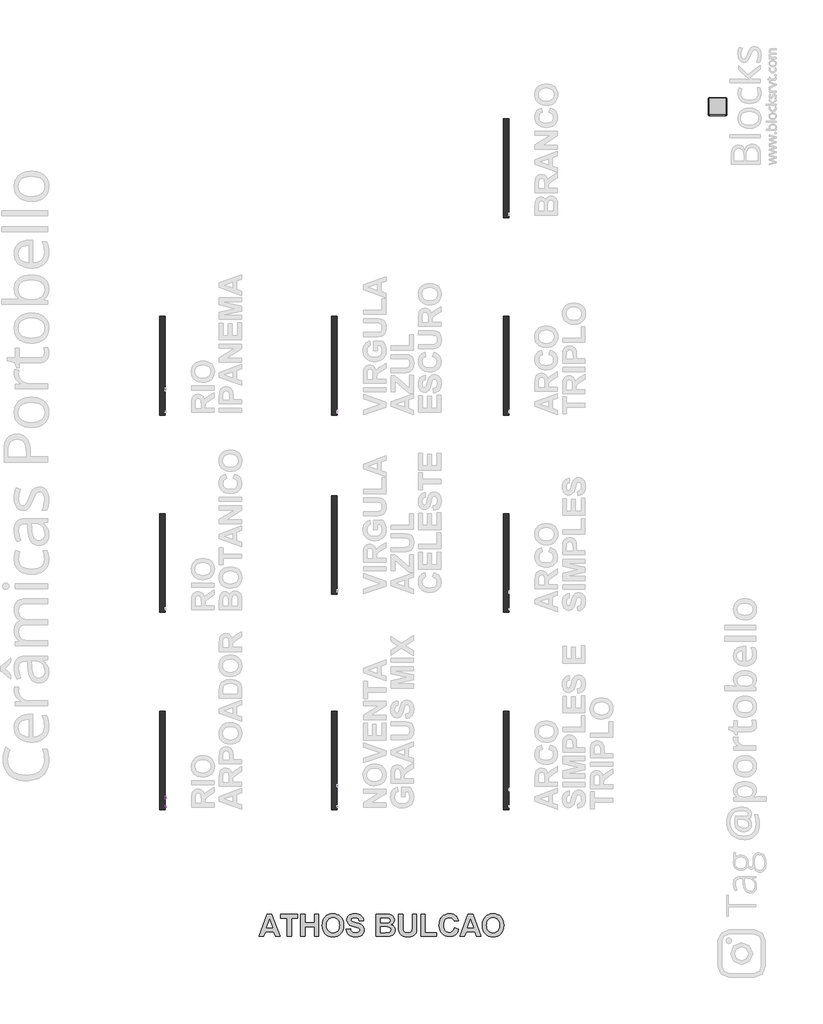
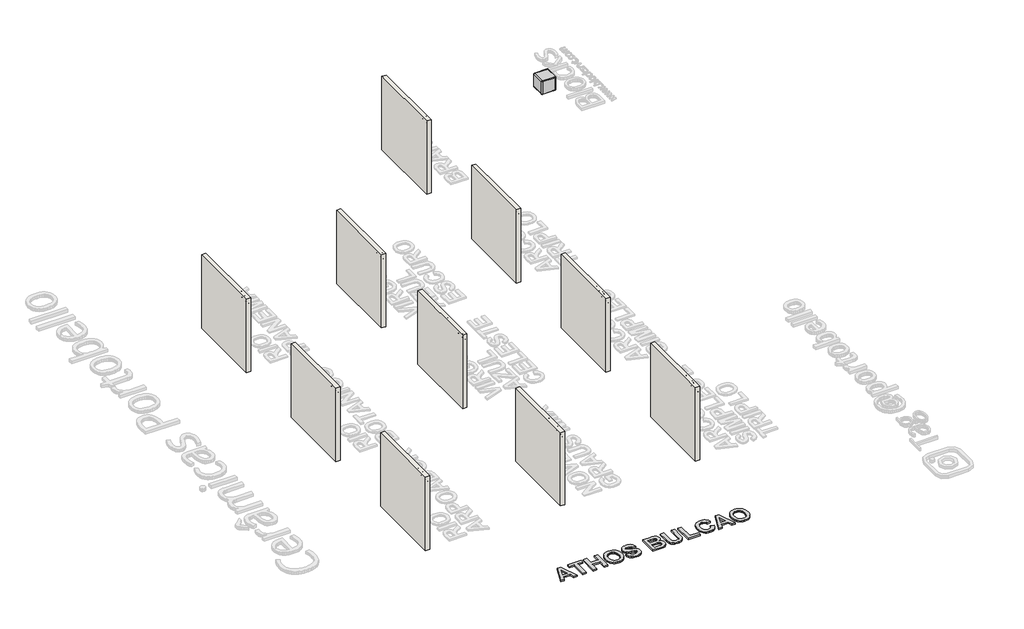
# One storey, part 1 of 12: 10 walls, 3 proxies, 1 furniture element.
"""IFC4 building model written with IfcOpenShell, lengths in millimetres."""

from ifc_helpers import new_model, si_unit, frame, origin, origin_with_axes, place, context, project, spatial, polyline, outline, extrude, transform, mapped, element, save
from components import branco_22256ad2

model = new_model("IFC4")

# Units and contexts
model_context = context("Model", 3, world=origin())
ifc_project = project(units=[si_unit("LENGTHUNIT", "METRE", prefix="MILLI")], contexts=[model_context])

# Site, building, storey
site = spatial("IfcSite", under=ifc_project)
building = spatial("IfcBuilding", under=site)
storey = spatial("IfcBuildingStorey", under=building, Name="PORTOBELLO - SHOWROOM", Elevation=0.0)

# Proxies
placement = place(None, origin())
element("IfcBuildingElementProxy", 1, Name="10mm Arial", ObjectType="10mm Arial", at=placement, inside=storey, context=model_context, shape_type="SweptSolid", body=[
    extrude(outline(polyline([(-9164.9115358, 2548.8308244), (-9164.9115358, 2649.2871345), (-9121.6240877, 2649.2871345), (-9101.525468, 2646.5770705), (-9090.5380591, 2636.9876132), (-9086.4300435, 2621.7940868), (-9088.1314977, 2611.8980611), (-9093.2358604, 2603.6942926), (-9101.8964157, 2597.679422), (-9114.2664478, 2594.3500899), (-9107.1295371, 2588.9790128), (-9096.9514686, 2576.054092), (-9080.2005751, 2548.8308244), (-9094.7932275, 2548.8308244), (-9107.8653011, 2569.6529453), (-9117.3076056, 2583.4362574), (-9123.9417443, 2589.9477687), (-9129.9136953, 2592.3390017), (-9137.1977588, 2592.7804601), (-9152.354497, 2592.7804601), (-9152.354497, 2548.8308244), (-9164.9115358, 2548.8308244)]), holes=[polyline([(-9152.354497, 2605.3374988), (-9124.2483126, 2605.3374988), (-9109.9131775, 2607.1155952), (-9101.7707227, 2612.8055033), (-9098.9870823, 2621.3281029), (-9104.2968457, 2632.3890882), (-9121.0845275, 2636.7300958), (-9152.354497, 2636.7300958), (-9152.354497, 2605.3374988)])]), frame((3902.9163978, 0.0, 0.0), z_axis=(1.0, 0.0, 0.0), x_axis=(0.0, 1.0, 0.0)), (0.0, 0.0, 1.0), 20.0),
    extrude(outline(polyline([(3922.9163978, -9053.4678167), (3922.9163978, -9066.0248555), (3902.9163978, -9066.0248555), (3902.9163978, -9053.4678167), (3922.9163978, -9053.4678167)])), frame((0.0, 0.0, 2636.7300958), z_axis=(0.0, 0.0, 1.0), x_axis=(1.0, 0.0, 0.0)), (0.0, 0.0, 1.0), 12.5570388),
    extrude(outline(polyline([(3922.9163978, -9053.4678167), (3922.9163978, -9066.0248555), (3902.9163978, -9066.0248555), (3902.9163978, -9053.4678167), (3922.9163978, -9053.4678167)])), frame((0.0, 0.0, 2548.8308244), z_axis=(0.0, 0.0, 1.0), x_axis=(1.0, 0.0, 0.0)), (0.0, 0.0, 1.0), 73.7726028),
    extrude(outline(polyline([(-9037.7715183, 2585.7171258), (-9035.0553229, 2603.5042202), (-9026.9067367, 2616.0060767), (-9016.8390328, 2622.1313119), (-9004.784766, 2624.173057), (-8991.5931308, 2621.6867878), (-8981.0563774, 2614.2279804), (-8974.1493929, 2602.3852458), (-8971.8470647, 2586.7471954), (-8975.9182922, 2564.4044955), (-8987.7763551, 2551.7616176), (-9004.784766, 2547.2611945), (-9018.1358168, 2549.7382666), (-9028.6603075, 2557.1694829), (-9035.4937156, 2569.2605379), (-9037.7715183, 2585.7171258)]), holes=[polyline([(-9025.2144795, 2585.7416512), (-9023.7613456, 2574.3771633), (-9019.401944, 2566.2806937), (-9012.8413817, 2561.4338484), (-9004.784766, 2559.8182333), (-8996.7649385, 2561.4430455), (-8990.216639, 2566.3174819), (-8985.8572374, 2574.5212504), (-8984.4041035, 2586.1340587), (-8985.8664344, 2597.1674529), (-8990.2534272, 2605.1535578), (-8996.8109238, 2610.0004031), (-9004.784766, 2611.6160182), (-9012.8413817, 2610.0065345), (-9019.401944, 2605.1780833), (-9023.7613456, 2597.1000078), (-9025.2144795, 2585.7416512)])]), frame((3902.9163978, 0.0, 0.0), z_axis=(1.0, 0.0, 0.0), x_axis=(0.0, 1.0, 0.0)), (0.0, 0.0, 1.0), 20.0),
    extrude(outline(polyline([(-8928.6086676, 2548.8308244), (-8888.5095301, 2649.2871345), (-8877.8164268, 2649.2871345), (-8837.7172893, 2548.8308244), (-8850.9855666, 2548.8308244), (-8862.4880103, 2580.2234213), (-8903.862472, 2580.2234213), (-8915.3403903, 2548.8308244), (-8928.6086676, 2548.8308244)]), holes=[polyline([(-8899.2516844, 2592.7804601), (-8867.0742725, 2592.7804601), (-8876.1241696, 2617.4776047), (-8883.1629784, 2636.7300958), (-8889.4169724, 2619.6358457), (-8899.2516844, 2592.7804601)])]), frame((3902.9163978, 0.0, 0.0), z_axis=(1.0, 0.0, 0.0), x_axis=(0.0, 1.0, 0.0)), (0.0, 0.0, 1.0), 20.0),
    extrude(outline(polyline([(-8825.8714891, 2548.8308244), (-8825.8714891, 2622.6034272), (-8814.8840801, 2622.6034272), (-8814.8840801, 2611.6895946), (-8807.0849818, 2621.7450358), (-8799.2368326, 2624.173057), (-8786.6307429, 2620.2980333), (-8790.8245976, 2609.0408443), (-8799.6537655, 2611.6160182), (-8806.753888, 2609.1389461), (-8811.2788366, 2602.2718156), (-8813.3144503, 2587.6055867), (-8813.3144503, 2548.8308244), (-8825.8714891, 2548.8308244)])), frame((3902.9163978, 0.0, 0.0), z_axis=(1.0, 0.0, 0.0), x_axis=(0.0, 1.0, 0.0)), (0.0, 0.0, 1.0), 20.0),
    extrude(outline(polyline([(-8778.7825937, 2520.5774872), (-8778.7825937, 2622.6034272), (-8766.2255549, 2622.6034272), (-8766.2255549, 2610.291643), (-8757.5435398, 2620.7027035), (-8745.8203669, 2624.173057), (-8729.9033392, 2619.3170147), (-8719.5045415, 2605.6318044), (-8715.9973998, 2586.2812115), (-8719.9582626, 2565.9373372), (-8731.4607064, 2552.0804487), (-8747.3409458, 2547.2611945), (-8758.2670411, 2550.4862934), (-8766.2255549, 2558.6410109), (-8766.2255549, 2520.5774872), (-8778.7825937, 2520.5774872)]), holes=[polyline([(-8766.2255549, 2585.1285146), (-8764.8674572, 2573.8713255), (-8760.7931641, 2565.9986508), (-8754.7813592, 2561.3633377), (-8747.6107259, 2559.8182333), (-8740.3235968, 2561.41852), (-8734.1585077, 2566.21938), (-8729.9554559, 2574.3802289), (-8728.5544386, 2586.0604823), (-8729.9217333, 2597.2563577), (-8734.0236176, 2605.239397), (-8740.0262255, 2610.0218629), (-8747.0956912, 2611.6160182), (-8754.192748, 2609.9206954), (-8760.4252821, 2604.8347268), (-8764.7754867, 2596.517528), (-8766.2255549, 2585.1285146)])]), frame((3902.9163978, 0.0, 0.0), z_axis=(1.0, 0.0, 0.0), x_axis=(0.0, 1.0, 0.0)), (0.0, 0.0, 1.0), 20.0),
    extrude(outline(polyline([(-8705.0099909, 2585.7171258), (-8702.2937955, 2603.5042202), (-8694.1452093, 2616.0060767), (-8684.0775054, 2622.1313119), (-8672.0232387, 2624.173057), (-8658.8316035, 2621.6867878), (-8648.29485, 2614.2279804), (-8641.3878655, 2602.3852458), (-8639.0855374, 2586.7471954), (-8643.1567648, 2564.4044955), (-8655.0148278, 2551.7616176), (-8672.0232387, 2547.2611945), (-8685.3742894, 2549.7382666), (-8695.8987802, 2557.1694829), (-8702.7321882, 2569.2605379), (-8705.0099909, 2585.7171258)]), holes=[polyline([(-8692.4529521, 2585.7416512), (-8690.9998183, 2574.3771633), (-8686.6404166, 2566.2806937), (-8680.0798544, 2561.4338484), (-8672.0232387, 2559.8182333), (-8664.0034112, 2561.4430455), (-8657.4551117, 2566.3174819), (-8653.09571, 2574.5212504), (-8651.6425761, 2586.1340587), (-8653.1049071, 2597.1674529), (-8657.4918999, 2605.1535578), (-8664.0493964, 2610.0004031), (-8672.0232387, 2611.6160182), (-8680.0798544, 2610.0065345), (-8686.6404166, 2605.1780833), (-8690.9998183, 2597.1000078), (-8692.4529521, 2585.7416512)])]), frame((3902.9163978, 0.0, 0.0), z_axis=(1.0, 0.0, 0.0), x_axis=(0.0, 1.0, 0.0)), (0.0, 0.0, 1.0), 20.0),
    extrude(outline(polyline([(-8577.8699734, 2558.2486035), (-8590.0468674, 2549.7382666), (-8603.4990857, 2547.2611945), (-8613.9929196, 2548.7511166), (-8621.7337699, 2553.2208829), (-8626.5070388, 2560.0083057), (-8628.0981284, 2568.4511975), (-8625.6946327, 2578.3840113), (-8619.3793252, 2585.5944984), (-8610.5869455, 2589.7147768), (-8599.7221639, 2591.6032377), (-8577.9435498, 2595.9197198), (-8577.8699734, 2598.7156229), (-8581.3280641, 2607.9862492), (-8595.2094781, 2611.6160182), (-8607.9136696, 2609.2002598), (-8613.9714598, 2600.6286093), (-8626.5284986, 2602.1982392), (-8621.0961078, 2614.4609723), (-8610.1577498, 2621.646934), (-8593.5907973, 2624.173057), (-8578.3727454, 2621.9412396), (-8569.7765695, 2616.3371705), (-8565.9260713, 2607.8145709), (-8565.3129346, 2596.827162), (-8565.3129346, 2581.20444), (-8564.6752725, 2559.3890376), (-8562.1736749, 2548.8308244), (-8574.7307137, 2548.8308244), (-8577.8699734, 2558.2486035)]), holes=[polyline([(-8577.8699734, 2583.362681), (-8598.1280086, 2579.5121828), (-8608.9314765, 2577.4765691), (-8613.824307, 2574.1656311), (-8615.5410897, 2569.3341142), (-8611.8009561, 2562.5405601), (-8600.8258099, 2559.8182333), (-8588.1216183, 2562.8226029), (-8579.9301125, 2570.0944037), (-8577.9435498, 2579.8064884), (-8577.8699734, 2583.362681)])]), frame((3902.9163978, 0.0, 0.0), z_axis=(1.0, 0.0, 0.0), x_axis=(0.0, 1.0, 0.0)), (0.0, 0.0, 1.0), 20.0),
    extrude(outline(polyline([(-8502.5277408, 2548.8308244), (-8502.5277408, 2560.6766246), (-8510.8357425, 2550.6150521), (-8522.3197921, 2547.2611945), (-8537.8689378, 2552.1172369), (-8548.8563467, 2565.667557), (-8552.7558958, 2585.6435494), (-8549.162915, 2605.6318044), (-8538.3962353, 2619.3905911), (-8522.368843, 2624.173057), (-8510.7928229, 2620.7517544), (-8502.5277408, 2611.8612729), (-8502.5277408, 2649.2871345), (-8489.970702, 2649.2871345), (-8489.970702, 2548.8308244), (-8502.5277408, 2548.8308244)]), holes=[polyline([(-8540.1988571, 2585.6926003), (-8538.7825114, 2574.3342437), (-8534.5334743, 2566.2561682), (-8528.3591882, 2561.427717), (-8521.1670952, 2559.8182333), (-8513.9780679, 2561.3541406), (-8507.9601316, 2565.9618626), (-8503.8858385, 2573.7272384), (-8502.5277408, 2584.7361071), (-8503.9103639, 2596.7719797), (-8508.0582334, 2605.1167696), (-8514.2294539, 2609.9912061), (-8521.68213, 2611.6160182), (-8528.9477994, 2610.0555854), (-8534.9013563, 2605.374287), (-8538.8744819, 2597.3329998), (-8540.1988571, 2585.6926003)])]), frame((3902.9163978, 0.0, 0.0), z_axis=(1.0, 0.0, 0.0), x_axis=(0.0, 1.0, 0.0)), (0.0, 0.0, 1.0), 20.0),
    extrude(outline(polyline([(-8474.2744035, 2585.7171258), (-8471.5582081, 2603.5042202), (-8463.4096219, 2616.0060767), (-8453.341918, 2622.1313119), (-8441.2876513, 2624.173057), (-8428.0960161, 2621.6867878), (-8417.5592626, 2614.2279804), (-8410.6522781, 2602.3852458), (-8408.34995, 2586.7471954), (-8412.4211774, 2564.4044955), (-8424.2792404, 2551.7616176), (-8441.2876513, 2547.2611945), (-8454.638702, 2549.7382666), (-8465.1631928, 2557.1694829), (-8471.9966008, 2569.2605379), (-8474.2744035, 2585.7171258)]), holes=[polyline([(-8461.7173648, 2585.7416512), (-8460.2642309, 2574.3771633), (-8455.9048292, 2566.2806937), (-8449.344267, 2561.4338484), (-8441.2876513, 2559.8182333), (-8433.2678238, 2561.4430455), (-8426.7195243, 2566.3174819), (-8422.3601226, 2574.5212504), (-8420.9069888, 2586.1340587), (-8422.3693197, 2597.1674529), (-8426.7563125, 2605.1535578), (-8433.3138091, 2610.0004031), (-8441.2876513, 2611.6160182), (-8449.344267, 2610.0065345), (-8455.9048292, 2605.1780833), (-8460.2642309, 2597.1000078), (-8461.7173648, 2585.7416512)])]), frame((3902.9163978, 0.0, 0.0), z_axis=(1.0, 0.0, 0.0), x_axis=(0.0, 1.0, 0.0)), (0.0, 0.0, 1.0), 20.0),
    extrude(outline(polyline([(-8394.2232814, 2548.8308244), (-8394.2232814, 2622.6034272), (-8383.2358725, 2622.6034272), (-8383.2358725, 2611.6895946), (-8375.4367742, 2621.7450358), (-8367.5886249, 2624.173057), (-8354.9825352, 2620.2980333), (-8359.17639, 2609.0408443), (-8368.0055579, 2611.6160182), (-8375.1056804, 2609.1389461), (-8379.6306289, 2602.2718156), (-8381.6662426, 2587.6055867), (-8381.6662426, 2548.8308244), (-8394.2232814, 2548.8308244)])), frame((3902.9163978, 0.0, 0.0), z_axis=(1.0, 0.0, 0.0), x_axis=(0.0, 1.0, 0.0)), (0.0, 0.0, 1.0), 20.0),
])
element("IfcBuildingElementProxy", 2, Name="10mm Arial Narrow", ObjectType="10mm Arial Narrow", at=placement, inside=storey, context=model_context, shape_type="SweptSolid", body=[
    extrude(outline(polyline([(-9167.7764767, 2398.8308244), (-9167.7764767, 2499.5494281), (-9136.479592, 2499.5494281), (-9120.1838905, 2497.6711074), (-9108.7109044, 2488.1906642), (-9104.4212259, 2471.1715554), (-9106.2075343, 2459.0957299), (-9111.5664595, 2449.4693361), (-9121.3102484, 2443.1680777), (-9136.2511476, 2441.0676582), (-9158.029515, 2441.0676582), (-9158.029515, 2398.8308244), (-9167.7764767, 2398.8308244)]), holes=[polyline([(-9158.029515, 2452.4391135), (-9135.0581601, 2452.4391135), (-9119.1939647, 2456.9699277), (-9114.1681876, 2470.6385184), (-9116.6430021, 2480.8042949), (-9122.6206309, 2486.6042447), (-9135.2866045, 2488.1779729), (-9158.029515, 2488.1779729), (-9158.029515, 2452.4391135)])]), frame((3902.9163978, 0.0, 0.0), z_axis=(1.0, 0.0, 0.0), x_axis=(0.0, 1.0, 0.0)), (0.0, 0.0, 1.0), 20.0),
    extrude(outline(polyline([(-9096.2987579, 2435.3819306), (-9094.344289, 2451.9727061), (-9088.4808824, 2463.9247909), (-9079.6223157, 2471.1493455), (-9068.6823665, 2473.5575304), (-9057.869331, 2471.1493455), (-9048.9853815, 2463.9247909), (-9043.0458268, 2452.1630765), (-9041.0659752, 2436.143412), (-9043.0109255, 2418.9815254), (-9048.8457766, 2406.8390702), (-9057.6948248, 2399.6145156), (-9068.6823665, 2397.2063308), (-9079.5429947, 2399.6208613), (-9088.4174256, 2406.8644529), (-9094.3284248, 2418.8228834), (-9096.2987579, 2435.3819306)]), holes=[polyline([(-9086.5517962, 2435.4073133), (-9085.2477594, 2422.8555619), (-9081.3356488, 2413.9843038), (-9075.494452, 2408.7110453), (-9068.4031567, 2406.9532924), (-9061.6830835, 2408.7269095), (-9055.9910102, 2414.0477606), (-9052.1074552, 2422.9348829), (-9050.8129368, 2435.4073133), (-9052.1169737, 2447.9209906), (-9056.0290843, 2456.7795573), (-9061.870281, 2462.0528159), (-9068.9615764, 2463.8105687), (-9075.7292421, 2462.0432974), (-9081.4117969, 2456.7414833), (-9085.2667964, 2447.873398), (-9086.5517962, 2435.4073133)])]), frame((3902.9163978, 0.0, 0.0), z_axis=(1.0, 0.0, 0.0), x_axis=(0.0, 1.0, 0.0)), (0.0, 0.0, 1.0), 20.0),
    extrude(outline(polyline([(-8969.5882564, 2406.9532924), (-8967.9637628, 2397.2063308), (-8975.3247495, 2397.2063308), (-8983.5995138, 2399.3257873), (-8987.9145749, 2405.1257371), (-8989.0821797, 2419.7715623), (-8989.0821797, 2462.1860751), (-8997.2046478, 2462.1860751), (-8997.2046478, 2465.4350624), (-8998.8291414, 2460.5615815), (-9006.3931897, 2462.1860751), (-9012.4723494, 2459.8635569), (-9016.3432131, 2453.3782738), (-9018.3230647, 2437.9709673), (-9018.3230647, 2398.8308244), (-9028.0700263, 2398.8308244), (-9028.0700263, 2471.9330368), (-9018.3230647, 2471.9330368), (-9018.3230647, 2462.2368406), (-9012.0789174, 2471.3238517), (-9005.6824738, 2473.5575304), (-8997.2046478, 2471.9330368), (-8989.0821797, 2471.9330368), (-8989.0821797, 2488.1779729), (-8979.3352181, 2496.3004409), (-8979.3352181, 2471.9330368), (-8969.5882564, 2471.9330368), (-8969.5882564, 2462.1860751), (-8979.3352181, 2462.1860751), (-8979.3352181, 2417.5378836), (-8978.4722058, 2409.5423291), (-8973.8525521, 2406.9532924), (-8969.5882564, 2406.9532924)])), frame((3902.9163978, 0.0, 0.0), z_axis=(1.0, 0.0, 0.0), x_axis=(0.0, 1.0, 0.0)), (0.0, 0.0, 1.0), 20.0),
    extrude(outline(polyline([(-8963.090282, 2435.3819306), (-8961.1358131, 2451.9727061), (-8955.2724065, 2463.9247909), (-8946.4138398, 2471.1493455), (-8935.4738906, 2473.5575304), (-8924.660855, 2471.1493455), (-8915.7769056, 2463.9247909), (-8909.8373508, 2452.1630765), (-8907.8574993, 2436.143412), (-8909.8024496, 2418.9815254), (-8915.6373007, 2406.8390702), (-8924.4863489, 2399.6145156), (-8935.4738906, 2397.2063308), (-8946.3345188, 2399.6208613), (-8955.2089497, 2406.8644529), (-8961.1199489, 2418.8228834), (-8963.090282, 2435.3819306)]), holes=[polyline([(-8953.3433203, 2435.4073133), (-8952.0392834, 2422.8555619), (-8948.1271729, 2413.9843038), (-8942.2859761, 2408.7110453), (-8935.1946808, 2406.9532924), (-8928.4746076, 2408.7269095), (-8922.7825343, 2414.0477606), (-8918.8989793, 2422.9348829), (-8917.6044609, 2435.4073133), (-8918.9084978, 2447.9209906), (-8922.8206084, 2456.7795573), (-8928.6618051, 2462.0528159), (-8935.7531005, 2463.8105687), (-8942.5207662, 2462.0432974), (-8948.203321, 2456.7414833), (-8952.0583205, 2447.873398), (-8953.3433203, 2435.4073133)])]), frame((3902.9163978, 0.0, 0.0), z_axis=(1.0, 0.0, 0.0), x_axis=(0.0, 1.0, 0.0)), (0.0, 0.0, 1.0), 20.0),
    extrude(outline(polyline([(-8885.1145887, 2398.8308244), (-8894.8615504, 2398.8308244), (-8894.8615504, 2499.5494281), (-8885.1145887, 2499.5494281), (-8885.1145887, 2464.140544), (-8877.715528, 2471.2223208), (-8868.5142947, 2473.5575304), (-8855.632568, 2469.3566915), (-8846.3551865, 2456.6272611), (-8842.8777549, 2435.9403503), (-8844.8100139, 2419.4860068), (-8850.6067909, 2407.2832677), (-8858.9799132, 2399.725565), (-8868.6412082, 2397.2063308), (-8877.9820465, 2399.8207502), (-8885.1145887, 2407.5878602), (-8885.1145887, 2398.8308244)]), holes=[polyline([(-8885.1145887, 2435.9403503), (-8883.0332063, 2418.692797), (-8877.144417, 2409.9611439), (-8868.6919737, 2406.9532924), (-8862.7492461, 2408.7427737), (-8857.5108887, 2414.1112174), (-8852.6247166, 2435.5342269), (-8857.3332098, 2456.9699277), (-8862.5779128, 2462.1004085), (-8868.8950354, 2463.8105687), (-8874.8726642, 2462.0210875), (-8880.1649598, 2456.6526438), (-8885.1145887, 2435.9403503)])]), frame((3902.9163978, 0.0, 0.0), z_axis=(1.0, 0.0, 0.0), x_axis=(0.0, 1.0, 0.0)), (0.0, 0.0, 1.0), 20.0),
    extrude(outline(polyline([(-8790.8939594, 2421.5737349), (-8781.1469978, 2419.9492413), (-8784.8465281, 2410.0626747), (-8790.665515, 2402.9428238), (-8798.3691683, 2398.640454), (-8807.7226979, 2397.2063308), (-8819.3162519, 2399.6208613), (-8828.4603741, 2406.8644529), (-8834.3999289, 2418.6705872), (-8836.3797805, 2434.7727455), (-8834.3904104, 2451.4396692), (-8828.4223001, 2463.6201984), (-8819.4082642, 2471.0731974), (-8808.2811176, 2473.5575304), (-8797.5981684, 2471.1588641), (-8788.8506511, 2463.962865), (-8783.0158, 2452.2233604), (-8781.0708496, 2436.1941774), (-8781.1469978, 2432.9451902), (-8826.6328188, 2432.9451902), (-8820.6298073, 2413.5020323), (-8814.699771, 2408.5904774), (-8807.5957843, 2406.9532924), (-8797.4173166, 2410.608403), (-8790.8939594, 2421.5737349)]), holes=[polyline([(-8825.9728683, 2442.6921518), (-8790.8939594, 2442.6921518), (-8795.1582551, 2456.9572363), (-8800.9835877, 2462.0972356), (-8808.2049694, 2463.8105687), (-8820.4140542, 2458.0994584), (-8825.9728683, 2442.6921518)])]), frame((3902.9163978, 0.0, 0.0), z_axis=(1.0, 0.0, 0.0), x_axis=(0.0, 1.0, 0.0)), (0.0, 0.0, 1.0), 20.0),
    extrude(outline(polyline([(3922.9163978, -8758.4040872), (3922.9163978, -8768.1510489), (3902.9163978, -8768.1510489), (3902.9163978, -8758.4040872), (3922.9163978, -8758.4040872)])), frame((0.0, 0.0, 2398.8308244), z_axis=(0.0, 0.0, 1.0), x_axis=(1.0, 0.0, 0.0)), (0.0, 0.0, 1.0), 100.7186038),
    extrude(outline(polyline([(3922.9163978, -8732.4121895), (3922.9163978, -8742.1591512), (3902.9163978, -8742.1591512), (3902.9163978, -8732.4121895), (3922.9163978, -8732.4121895)])), frame((0.0, 0.0, 2398.8308244), z_axis=(0.0, 0.0, 1.0), x_axis=(1.0, 0.0, 0.0)), (0.0, 0.0, 1.0), 100.7186038),
    extrude(outline(polyline([(-8721.0407342, 2435.3819306), (-8719.0862654, 2451.9727061), (-8713.2228587, 2463.9247909), (-8704.364292, 2471.1493455), (-8693.4243429, 2473.5575304), (-8682.6113073, 2471.1493455), (-8673.7273579, 2463.9247909), (-8667.7878031, 2452.1630765), (-8665.8079515, 2436.143412), (-8667.7529019, 2418.9815254), (-8673.587753, 2406.8390702), (-8682.4368012, 2399.6145156), (-8693.4243429, 2397.2063308), (-8704.2849711, 2399.6208613), (-8713.159402, 2406.8644529), (-8719.0704012, 2418.8228834), (-8721.0407342, 2435.3819306)]), holes=[polyline([(-8711.2937726, 2435.4073133), (-8709.9897357, 2422.8555619), (-8706.0776251, 2413.9843038), (-8700.2364284, 2408.7110453), (-8693.145133, 2406.9532924), (-8686.4250599, 2408.7269095), (-8680.7329866, 2414.0477606), (-8676.8494315, 2422.9348829), (-8675.5549132, 2435.4073133), (-8676.85895, 2447.9209906), (-8680.7710606, 2456.7795573), (-8686.6122574, 2462.0528159), (-8693.7035527, 2463.8105687), (-8700.4712185, 2462.0432974), (-8706.1537733, 2456.7414833), (-8710.0087728, 2447.873398), (-8711.2937726, 2435.4073133)])]), frame((3902.9163978, 0.0, 0.0), z_axis=(1.0, 0.0, 0.0), x_axis=(0.0, 1.0, 0.0)), (0.0, 0.0, 1.0), 20.0),
])
element("IfcBuildingElementProxy", 3, Name="600mm Arial", ObjectType="600mm Arial", at=placement, inside=storey, context=model_context, shape_type="SweptSolid", body=[
    extrude(outline(polyline([(7041.6886947, -12688.7002712), (6919.1664721, -12688.7002712), (6871.1899884, -12552.6656845), (6639.9615559, -12552.6656845), (6592.5923695, -12688.7002712), (6468.4000795, -12688.7002712), (6691.8854718, -12076.5446312), (6816.0777619, -12076.5446312), (7041.6886947, -12688.7002712)]), holes=[polyline([(6833.8412068, -12445.7813664), (6755.0443871, -12222.2959741), (6677.3103376, -12445.7813664), (6833.8412068, -12445.7813664)])]), origin_with_axes(), (0.0, 0.0, 1.0), 50.0),
    extrude(outline(polyline([(7236.0238185, -12688.7002712), (7236.0238185, -12183.4289493), (7061.1222071, -12183.4289493), (7061.1222071, -12076.5446312), (7527.5265042, -12076.5446312), (7527.5265042, -12183.4289493), (7352.6248928, -12183.4289493), (7352.6248928, -12688.7002712), (7236.0238185, -12688.7002712)])), origin_with_axes(), (0.0, 0.0, 1.0), 50.0),
    extrude(outline(polyline([(7605.2605537, -12688.7002712), (7605.2605537, -12076.5446312), (7721.861628, -12076.5446312), (7721.861628, -12319.463536), (7984.2140451, -12319.463536), (7984.2140451, -12076.5446312), (8100.8151194, -12076.5446312), (8100.8151194, -12688.7002712), (7984.2140451, -12688.7002712), (7984.2140451, -12426.3478541), (7721.861628, -12426.3478541), (7721.861628, -12688.7002712), (7605.2605537, -12688.7002712)])), origin_with_axes(), (0.0, 0.0, 1.0), 50.0),
    extrude(outline(polyline([(8197.9826813, -12386.4180591), (8199.7001939, -12341.610908), (8204.8527316, -12300.5614087), (8213.4402944, -12263.2695612), (8225.4628824, -12229.7353655), (8249.6978388, -12185.4975556), (8281.4101426, -12146.0042555), (8318.5501658, -12113.6846544), (8359.06828, -12090.9679412), (8388.2375266, -12080.4066622), (8419.5702697, -12072.8628916), (8453.0665093, -12068.3366292), (8488.7262454, -12066.827875), (8551.8282265, -12072.0610694), (8608.2878939, -12087.7606525), (8658.1052474, -12113.9266244), (8701.2802871, -12150.558985), (8719.9617946, -12172.5130183), (8736.1524345, -12196.509563), (8761.0611113, -12250.6301869), (8776.0063173, -12312.9208569), (8780.9880527, -12383.3815728), (8776.0442734, -12453.3630932), (8761.2129356, -12515.2789468), (8736.4940392, -12569.1291337), (8720.4267566, -12593.0296022), (8701.8875843, -12614.9136539), (8658.9972152, -12651.4463798), (8609.4265762, -12677.541184), (8553.1756673, -12693.1980665), (8490.2444886, -12698.4170274), (8426.6490784, -12693.2217891), (8369.9237186, -12677.6360742), (8320.068409, -12651.6598827), (8277.0831497, -12615.2932147), (8242.4766947, -12569.8170877), (8217.7577984, -12516.5125194), (8202.9264606, -12455.3795099), (8197.9826813, -12386.4180591)]), holes=[polyline([(8314.5837556, -12382.1669783), (8317.6819205, -12430.5894459), (8326.9764153, -12472.7681385), (8342.46724, -12508.7030562), (8364.1543946, -12538.3941989), (8390.6145261, -12561.6422972), (8420.4242815, -12578.2480817), (8453.5836609, -12588.2115524), (8490.0926643, -12591.5327093), (8526.5637115, -12588.2352749), (8559.6092227, -12578.3429719), (8589.2291978, -12561.8558001), (8615.4236367, -12538.7737597), (8636.8450987, -12509.0968505), (8652.146143, -12472.8250726), (8661.3267696, -12429.9584261), (8664.3869784, -12380.4969108), (8661.4074262, -12331.7233494), (8652.4687697, -12289.5541458), (8637.5710087, -12253.9892999), (8616.7141434, -12225.0288117), (8590.9229878, -12202.5777911), (8561.2223561, -12186.5413478), (8527.6122482, -12176.9194818), (8490.0926643, -12173.7121931), (8452.5351242, -12176.9574379), (8418.8111481, -12186.6931721), (8388.920736, -12202.9193958), (8362.8638879, -12225.636109), (8341.74133, -12254.8907568), (8326.6537887, -12290.7307843), (8317.6012638, -12333.1561914), (8314.5837556, -12382.1669783)])]), origin_with_axes(), (0.0, 0.0, 1.0), 50.0),
    extrude(outline(polyline([(8849.005346, -12484.6483912), (8965.6064203, -12474.931635), (8972.666251, -12503.0001553), (8982.6107436, -12527.0832874), (8995.4398983, -12547.1810311), (9011.153715, -12563.2933866), (9029.7996387, -12575.6480903), (9051.4251146, -12584.4728786), (9076.0301428, -12589.7677516), (9103.6147231, -12591.5327093), (9132.6036783, -12589.9717655), (9157.7780476, -12585.2889343), (9179.137831, -12577.4842156), (9196.6830285, -12566.5576094), (9210.3661949, -12553.5434189), (9220.1398852, -12539.4759471), (9226.0040994, -12524.3551942), (9227.9588374, -12508.1811601), (9224.7135927, -12488.3491089), (9214.9778585, -12471.6674122), (9197.1195234, -12457.5667289), (9169.506476, -12445.4777178), (9068.3914819, -12419.5157599), (9021.4587904, -12406.8479185), (8982.0793585, -12392.6808121), (8950.2531864, -12377.0144406), (8925.980274, -12359.8488039), (8900.8059047, -12333.2700597), (8882.8242123, -12303.9394997), (8872.0351969, -12271.857124), (8868.4388584, -12237.0229327), (8870.0899478, -12214.097461), (8875.0432161, -12191.931111), (8883.2986633, -12170.5238825), (8894.8562893, -12149.8757756), (8909.5263138, -12130.812335), (8927.1189563, -12114.1591054), (8947.634217, -12099.9160868), (8971.0720957, -12088.0832792), (8997.2523011, -12078.7840399), (9025.9945418, -12072.1417261), (9091.1651292, -12066.827875), (9145.0769947, -12070.1395429), (9191.8815845, -12080.0745466), (9231.5788985, -12096.632886), (9264.1689367, -12119.8145611), (9289.7560783, -12148.5188458), (9308.4447027, -12181.6450136), (9320.2348097, -12219.1930646), (9325.1263993, -12261.1629988), (9208.5253251, -12261.1629988), (9203.2541746, -12239.4948223), (9195.6392363, -12221.1003576), (9185.6805101, -12205.9796047), (9173.377996, -12194.1325635), (9158.219287, -12185.1986515), (9139.691976, -12178.8172857), (9092.531548, -12173.7121931), (9042.8849969, -12179.1399124), (9022.6164508, -12185.9245615), (9005.384391, -12195.4230702), (8990.1260473, -12211.7441841), (8985.0399327, -12232.7718518), (8989.6705743, -12252.6228811), (9003.5624992, -12269.3615119), (9019.5277749, -12279.0830126), (9043.890833, -12288.9658266), (9117.8102966, -12309.2153947), (9196.7020065, -12330.2810184), (9251.9470793, -12352.3335003), (9290.6622797, -12379.0356018), (9319.9643726, -12414.0500845), (9330.724921, -12434.7835926), (9338.4110269, -12457.8134434), (9343.0226905, -12483.1396371), (9344.5599117, -12510.7621735), (9342.7427644, -12536.4584389), (9337.2913226, -12561.3196705), (9328.2055862, -12585.3458684), (9315.4855553, -12608.5370326), (9299.439623, -12629.8493709), (9280.3761824, -12648.2390911), (9258.2952335, -12663.7061933), (9233.1967763, -12676.2506773), (9204.9527091, -12685.9484555), (9173.4349302, -12692.8754399), (9100.5782368, -12698.4170274), (9046.0922855, -12695.0057248), (8998.3245603, -12684.771817), (8957.275061, -12667.7153041), (8922.9437877, -12643.836186), (8895.0935148, -12613.4191333), (8873.4870169, -12576.7488166), (8858.124294, -12533.8252359), (8849.005346, -12484.6483912)])), origin_with_axes(), (0.0, 0.0, 1.0), 50.0),
    extrude(outline(polyline([(9674.9296222, -12076.5446312), (9926.1988643, -12076.5446312), (9991.2745615, -12078.0628744), (10037.4101754, -12082.6176038), (10072.1399875, -12092.0117334), (10102.9982797, -12108.0481767), (10129.5106007, -12130.5940875), (10151.2024998, -12159.5166196), (10165.6637659, -12193.5822004), (10170.4841879, -12231.5572573), (10164.7338419, -12272.9293833), (10147.4828041, -12310.80955), (10120.3631857, -12342.4269637), (10085.0070983, -12365.0108306), (10108.8245378, -12374.5567844), (10129.7193592, -12386.9494442), (10147.6915625, -12402.1888099), (10162.7411478, -12420.2748814), (10174.6308895, -12440.6478068), (10183.1235621, -12462.7477337), (10188.2191657, -12486.5746622), (10189.9177003, -12512.1285923), (10185.0403441, -12553.1401355), (10170.4082757, -12592.9750403), (10147.3309798, -12628.2741936), (10117.117941, -12655.6784826), (10079.4085766, -12674.637544), (10033.842304, -12684.6010147), (9884.1435289, -12688.7002712), (9674.9296222, -12688.7002712), (9674.9296222, -12076.5446312)]), holes=[polyline([(9791.5306965, -12183.4289493), (9791.5306965, -12319.463536), (9880.4997453, -12319.463536), (9979.1855504, -12317.4898199), (10010.2526009, -12310.3920331), (10033.9182161, -12296.38624), (10048.8918892, -12276.15565), (10053.8831136, -12250.3834724), (10049.5750986, -12225.7309992), (10036.6510538, -12206.1266845), (10015.2628034, -12192.405562), (9985.5621716, -12185.4026654), (9869.5683946, -12183.4289493), (9791.5306965, -12183.4289493)]), polyline([(9791.5306965, -12426.3478541), (9791.5306965, -12581.8159531), (9914.8120406, -12581.8159531), (10006.2102785, -12578.1721695), (10033.1970506, -12570.0305906), (10054.6422352, -12555.0189614), (10068.6480283, -12533.4409306), (10073.316626, -12505.6001467), (10069.7107985, -12481.4600806), (10058.893316, -12461.2674466), (10041.2816954, -12445.5156739), (10017.2934536, -12434.6981914), (9974.175348, -12428.4354384), (9899.1741361, -12426.3478541), (9791.5306965, -12426.3478541)])]), origin_with_axes(), (0.0, 0.0, 1.0), 50.0),
    extrude(outline(polyline([(10287.0852622, -12076.5446312), (10403.6863364, -12076.5446312), (10403.6863364, -12406.7625174), (10404.938887, -12471.5915001), (10408.6965389, -12508.7884574), (10414.5133079, -12526.5471578), (10423.3096292, -12542.4744774), (10435.0855027, -12556.5704161), (10449.8409283, -12568.8349741), (10467.5759062, -12578.7652333), (10488.2904362, -12585.8582755), (10538.6581529, -12591.5327093), (10588.9689354, -12586.1809022), (10608.8152202, -12579.4911433), (10625.1221006, -12570.1254808), (10648.4081549, -12546.2700852), (10660.1176053, -12517.5183555), (10664.5584665, -12476.0133833), (10666.0387536, -12413.8982602), (10666.0387536, -12076.5446312), (10782.6398279, -12076.5446312), (10782.6398279, -12397.6530584), (10780.0967706, -12491.6702658), (10772.4675987, -12553.2729818), (10758.0063327, -12595.1575148), (10734.9669928, -12630.0201733), (10703.0269524, -12658.1646057), (10661.8635849, -12679.8944609), (10609.0856572, -12693.7863858), (10542.3019365, -12698.4170274), (10464.0744579, -12693.3688689), (10433.0168964, -12687.0586708), (10407.33012, -12678.2243934), (10366.1477744, -12654.9952732), (10334.6062729, -12625.6931803), (10312.4399228, -12592.5575234), (10299.3830317, -12557.8277113), (10290.1597045, -12492.7709921), (10287.0852622, -12402.6632608), (10287.0852622, -12076.5446312)])), origin_with_axes(), (0.0, 0.0, 1.0), 50.0),
    extrude(outline(polyline([(10899.2409021, -12688.7002712), (10899.2409021, -12076.5446312), (11015.8419764, -12076.5446312), (11015.8419764, -12581.8159531), (11326.7781745, -12581.8159531), (11326.7781745, -12688.7002712), (10899.2409021, -12688.7002712)])), origin_with_axes(), (0.0, 0.0, 1.0), 50.0),
    extrude(outline(polyline([(11812.615984, -12455.4981226), (11929.2170583, -12494.3651474), (11913.1141918, -12540.4675497), (11892.4376179, -12580.2407758), (11867.1873364, -12613.6848258), (11837.3633474, -12640.7996997), (11803.0890082, -12661.7561997), (11764.487676, -12676.7251283), (11721.5593508, -12685.7064855), (11674.3040326, -12688.7002712), (11615.9180943, -12683.5856896), (11562.9788533, -12668.2419447), (11515.4863096, -12642.6690365), (11473.4404632, -12606.8669652), (11439.0332777, -12562.1926603), (11414.4567167, -12510.0030519), (11399.71078, -12450.2981398), (11394.7954678, -12383.0779242), (11399.7534806, -12312.1949469), (11414.627519, -12249.700263), (11439.417583, -12195.5938726), (11455.5311247, -12171.6862874), (11474.1236727, -12149.8757756), (11516.9144071, -12113.5423191), (11565.9584055, -12087.5898502), (11621.2556679, -12072.0183688), (11682.8061943, -12066.827875), (11736.6279141, -12071.1074229), (11785.1357829, -12083.9460666), (11828.3298007, -12105.3438061), (11866.2099674, -12135.3006413), (11885.9186613, -12157.7042169), (11902.9894078, -12184.5296756), (11917.4222068, -12215.7770175), (11929.2170583, -12251.4462426), (11812.615984, -12270.879755), (11805.2667382, -12249.5247161), (11794.7576489, -12230.5514212), (11781.088716, -12213.9598702), (11764.2599395, -12199.7500632), (11744.8596387, -12188.3584951), (11723.4761328, -12180.2216606), (11700.1094217, -12175.33956), (11674.7595056, -12173.7121931), (11640.1103501, -12176.6680228), (11608.8867307, -12185.5355117), (11581.0886474, -12200.3146599), (11556.7161003, -12221.0054674), (11536.8887936, -12248.3101216), (11522.7264317, -12282.9308101), (11514.2290145, -12324.8675327), (11511.3965421, -12374.1202895), (11514.1436133, -12426.2529639), (11522.3848269, -12470.3009934), (11536.120183, -12506.2643781), (11555.3496814, -12534.143118), (11578.982085, -12554.9999834), (11605.9261565, -12569.8977443), (11636.1818959, -12578.8364009), (11669.7493031, -12581.8159531), (11694.7386366, -12579.9134046), (11717.9345453, -12574.2057593), (11739.3370292, -12564.693017), (11758.9460885, -12551.3751778), (11776.3347171, -12533.9675712), (11791.0759092, -12512.1855264), (11803.1696649, -12486.0290436), (11812.615984, -12455.4981226)])), origin_with_axes(), (0.0, 0.0, 1.0), 50.0),
    extrude(outline(polyline([(12541.3726983, -12688.7002712), (12418.8504757, -12688.7002712), (12370.873992, -12552.6656845), (12139.6455595, -12552.6656845), (12092.2763731, -12688.7002712), (11968.084083, -12688.7002712), (12191.5694754, -12076.5446312), (12315.7617655, -12076.5446312), (12541.3726983, -12688.7002712)]), holes=[polyline([(12333.5252104, -12445.7813664), (12254.7283906, -12222.2959741), (12176.9943411, -12445.7813664), (12333.5252104, -12445.7813664)])]), origin_with_axes(), (0.0, 0.0, 1.0), 50.0),
    extrude(outline(polyline([(12580.239723, -12386.4180591), (12581.9572356, -12341.610908), (12587.1097733, -12300.5614087), (12595.6973361, -12263.2695612), (12607.7199241, -12229.7353655), (12631.9548805, -12185.4975556), (12663.6671844, -12146.0042555), (12700.8072075, -12113.6846544), (12741.3253217, -12090.9679412), (12770.4945683, -12080.4066622), (12801.8273114, -12072.8628916), (12835.323551, -12068.3366292), (12870.9832871, -12066.827875), (12934.0852683, -12072.0610694), (12990.5449356, -12087.7606525), (13040.3622891, -12113.9266244), (13083.5373288, -12150.558985), (13102.2188364, -12172.5130183), (13118.4094763, -12196.509563), (13143.318153, -12250.6301869), (13158.2633591, -12312.9208569), (13163.2450944, -12383.3815728), (13158.3013151, -12453.3630932), (13143.4699773, -12515.2789468), (13118.751081, -12569.1291337), (13102.6837983, -12593.0296022), (13084.1446261, -12614.9136539), (13041.2542569, -12651.4463798), (12991.6836179, -12677.541184), (12935.4327091, -12693.1980665), (12872.5015303, -12698.4170274), (12808.9061202, -12693.2217891), (12752.1807603, -12677.6360742), (12702.3254507, -12651.6598827), (12659.3401914, -12615.2932147), (12624.7337365, -12569.8170877), (12600.0148401, -12516.5125194), (12585.1835023, -12455.3795099), (12580.239723, -12386.4180591)]), holes=[polyline([(12696.8407973, -12382.1669783), (12699.9389622, -12430.5894459), (12709.233457, -12472.7681385), (12724.7242817, -12508.7030562), (12746.4114363, -12538.3941989), (12772.8715678, -12561.6422972), (12802.6813232, -12578.2480817), (12835.8407026, -12588.2115524), (12872.349706, -12591.5327093), (12908.8207533, -12588.2352749), (12941.8662644, -12578.3429719), (12971.4862395, -12561.8558001), (12997.6806784, -12538.7737597), (13019.1021404, -12509.0968505), (13034.4031847, -12472.8250726), (13043.5838113, -12429.9584261), (13046.6440201, -12380.4969108), (13043.6644679, -12331.7233494), (13034.7258114, -12289.5541458), (13019.8280504, -12253.9892999), (12998.9711851, -12225.0288117), (12973.1800295, -12202.5777911), (12943.4793978, -12186.5413478), (12909.8692899, -12176.9194818), (12872.349706, -12173.7121931), (12834.7921659, -12176.9574379), (12801.0681899, -12186.6931721), (12771.1777778, -12202.9193958), (12745.1209296, -12225.636109), (12723.9983717, -12254.8907568), (12708.9108304, -12290.7307843), (12699.8583056, -12333.1561914), (12696.8407973, -12382.1669783)])]), origin_with_axes(), (0.0, 0.0, 1.0), 50.0),
])

# Furniture
branco_shape = branco_22256ad2(model_context)
element("IfcFurniture", 4, ObjectType="Blks_Mob_Blocks Revit_Cubo : Branco", at=placement, inside=storey, context=model_context, shape_type="MappedRepresentation", body=[
    mapped(branco_shape, transform((19017.136601, 10009.4495886, 0.0), x_axis=(1.0, 0.0, 0.0), y_axis=(0.0, 1.0, 0.0), z_axis=(0.0, 0.0, 1.0))),
])

# Walls
element("IfcWall", 5, ObjectType="PORTOBELLO - ATHOS BULCAO - ARCO SIMPLES E TRIPLO - 15,5X15,5 - BR - BOLD", at=placement, inside=storey, context=model_context, shape_type="SweptSolid", body=[
    extrude(outline(polyline([(13152.9163978, -9226.1599126), (13152.9163978, -6526.1599126), (13302.9163978, -6526.1599126), (13302.9163978, -9226.1599126), (13152.9163978, -9226.1599126)])), origin_with_axes(), (0.0, 0.0, 1.0), 2700.0),
])
element("IfcWall", 6, ObjectType="PORTOBELLO - ATHOS BULCAO - ARCO SIMPLES - 15,5X15,5 - BR - BOLD", at=placement, inside=storey, context=model_context, shape_type="SweptSolid", body=[
    extrude(outline(polyline([(13152.9163978, -3826.1599126), (13152.9163978, -1126.1599126), (13302.9163978, -1126.1599126), (13302.9163978, -3826.1599126), (13152.9163978, -3826.1599126)])), origin_with_axes(), (0.0, 0.0, 1.0), 2700.0),
])
element("IfcWall", 7, ObjectType="PORTOBELLO - ATHOS BULCAO - ARCO TRIPLO - 15,5X15,5 - BR - BOLD", at=placement, inside=storey, context=model_context, shape_type="SweptSolid", body=[
    extrude(outline(polyline([(13152.9163978, 1573.8400874), (13152.9163978, 4273.8400874), (13302.9163978, 4273.8400874), (13302.9163978, 1573.8400874), (13152.9163978, 1573.8400874)])), origin_with_axes(), (0.0, 0.0, 1.0), 2700.0),
])
element("IfcWall", 8, ObjectType="PORTOBELLO - ATHOS BULCAO - ATHOS BRANCO - 15,5X15,5 - BR - BOLD", at=placement, inside=storey, context=model_context, shape_type="SweptSolid", body=[
    extrude(outline(polyline([(13152.9163978, 6973.8400874), (13152.9163978, 9673.8400874), (13302.9163978, 9673.8400874), (13302.9163978, 6973.8400874), (13152.9163978, 6973.8400874)])), origin_with_axes(), (0.0, 0.0, 1.0), 2700.0),
])
element("IfcWall", 9, ObjectType="PORTOBELLO - ATHOS BULCAO - NOVENTA GRAUS MIX - 15,5X15,5 - BR - BOLD", at=placement, inside=storey, context=model_context, shape_type="SweptSolid", body=[
    extrude(outline(polyline([(8452.9163978, -9226.1599126), (8452.9163978, -6526.1599126), (8602.9163978, -6526.1599126), (8602.9163978, -9226.1599126), (8452.9163978, -9226.1599126)])), origin_with_axes(), (0.0, 0.0, 1.0), 2700.0),
])
element("IfcWall", 10, ObjectType="PORTOBELLO - ATHOS BULCAO - RIO ARPOADOR - 15,5X15,5 - BR - BOLD", at=placement, inside=storey, context=model_context, shape_type="SweptSolid", body=[
    extrude(outline(polyline([(3752.9163978, -9226.1599126), (3752.9163978, -6526.1599126), (3902.9163978, -6526.1599126), (3902.9163978, -9226.1599126), (3752.9163978, -9226.1599126)])), origin_with_axes(), (0.0, 0.0, 1.0), 2700.0),
])
element("IfcWall", 11, ObjectType="PORTOBELLO - ATHOS BULCAO - RIO BOTANICO - 15,5X15,5 - BR - BOLD", at=placement, inside=storey, context=model_context, shape_type="SweptSolid", body=[
    extrude(outline(polyline([(3752.9163978, -3826.1599126), (3752.9163978, -1126.1599126), (3902.9163978, -1126.1599126), (3902.9163978, -3826.1599126), (3752.9163978, -3826.1599126)])), origin_with_axes(), (0.0, 0.0, 1.0), 2700.0),
])
element("IfcWall", 12, ObjectType="PORTOBELLO - ATHOS BULCAO - RIO IPANEMA - 15,5X15,5 - BR - BOLD", at=placement, inside=storey, context=model_context, shape_type="SweptSolid", body=[
    extrude(outline(polyline([(3752.9163978, 1573.8400874), (3752.9163978, 4273.8400874), (3902.9163978, 4273.8400874), (3902.9163978, 1573.8400874), (3752.9163978, 1573.8400874)])), origin_with_axes(), (0.0, 0.0, 1.0), 2700.0),
])
element("IfcWall", 13, ObjectType="PORTOBELLO - ATHOS BULCAO - VIRGULA AZUL CELESTE - 15,5X15,5 - BR - BOLD", at=placement, inside=storey, context=model_context, shape_type="SweptSolid", body=[
    extrude(outline(polyline([(8452.9163978, -3326.1599126), (8452.9163978, -626.1599126), (8602.9163978, -626.1599126), (8602.9163978, -3326.1599126), (8452.9163978, -3326.1599126)])), origin_with_axes(), (0.0, 0.0, 1.0), 2700.0),
])
element("IfcWall", 14, ObjectType="PORTOBELLO - ATHOS BULCAO - VIRGULA AZUL ESCURO - 15,5X15,5 - BR - BOLD", at=placement, inside=storey, context=model_context, shape_type="SweptSolid", body=[
    extrude(outline(polyline([(8452.9163978, 1573.8400874), (8452.9163978, 4273.8400874), (8602.9163978, 4273.8400874), (8602.9163978, 1573.8400874), (8452.9163978, 1573.8400874)])), origin_with_axes(), (0.0, 0.0, 1.0), 2700.0),
])

save(model, "model.ifc")
